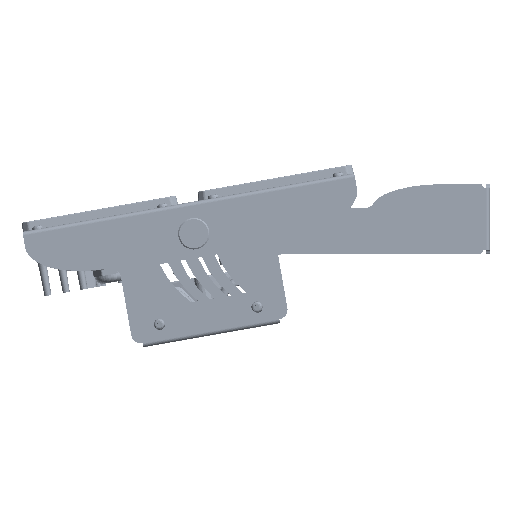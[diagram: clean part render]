
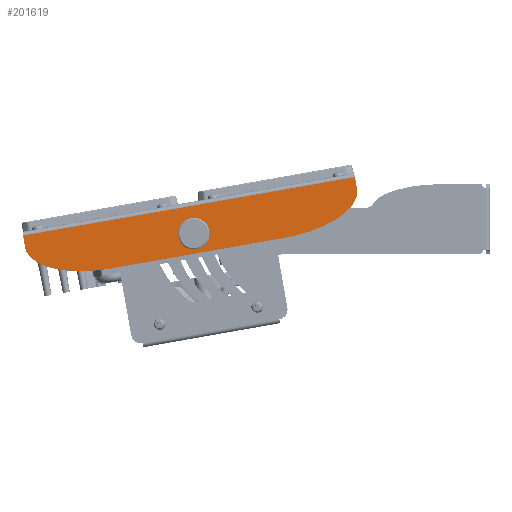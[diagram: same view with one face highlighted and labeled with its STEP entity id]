
A CAD part, left-side view. The second image highlights one B-rep face of the part: STEP entity #201619.
In plain terms, the highlighted planar face has unit normal (-1, 0, 0).
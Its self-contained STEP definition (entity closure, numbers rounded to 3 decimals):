
#16005=ELLIPSE('',#214063,40.,18.);
#16007=ELLIPSE('',#214066,40.,18.);
#19106=FACE_BOUND('',#34298,.T.);
#22347=FACE_OUTER_BOUND('',#34297,.T.);
#34297=EDGE_LOOP('',(#144525,#144526,#144527,#144528,#144529,#144530));
#34298=EDGE_LOOP('',(#144531));
#44650=CIRCLE('',#213337,4.);
#53830=LINE('',#297410,#66855);
#53835=LINE('',#297428,#66860);
#53839=LINE('',#297449,#66864);
#53841=LINE('',#297452,#66866);
#66855=VECTOR('',#236815,10.);
#66860=VECTOR('',#236826,10.);
#66864=VECTOR('',#236836,10.);
#66866=VECTOR('',#236840,10.);
#80004=VERTEX_POINT('',#289761);
#81438=VERTEX_POINT('',#297407);
#81439=VERTEX_POINT('',#297409);
#81441=VERTEX_POINT('',#297420);
#81443=VERTEX_POINT('',#297426);
#81445=VERTEX_POINT('',#297441);
#81447=VERTEX_POINT('',#297447);
#102505=EDGE_CURVE('',#80004,#80004,#44650,.T.);
#104653=EDGE_CURVE('',#81438,#81439,#53830,.T.);
#104657=EDGE_CURVE('',#81441,#81438,#16005,.T.);
#104660=EDGE_CURVE('',#81443,#81441,#53835,.T.);
#104663=EDGE_CURVE('',#81445,#81443,#16007,.T.);
#104666=EDGE_CURVE('',#81447,#81445,#53839,.T.);
#104668=EDGE_CURVE('',#81439,#81447,#53841,.T.);
#144525=ORIENTED_EDGE('',*,*,#104663,.F.);
#144526=ORIENTED_EDGE('',*,*,#104666,.F.);
#144527=ORIENTED_EDGE('',*,*,#104668,.F.);
#144528=ORIENTED_EDGE('',*,*,#104653,.F.);
#144529=ORIENTED_EDGE('',*,*,#104657,.F.);
#144530=ORIENTED_EDGE('',*,*,#104660,.F.);
#144531=ORIENTED_EDGE('',*,*,#102505,.T.);
#195159=PLANE('',#214069);
#201619=ADVANCED_FACE('',(#22347,#19106),#195159,.F.);
#213337=AXIS2_PLACEMENT_3D('',#289762,#234427,#234428);
#214063=AXIS2_PLACEMENT_3D('',#297422,#236820,#236821);
#214066=AXIS2_PLACEMENT_3D('',#297443,#236830,#236831);
#214069=AXIS2_PLACEMENT_3D('',#297453,#236841,#236842);
#234427=DIRECTION('center_axis',(1.,0.,0.));
#234428=DIRECTION('ref_axis',(0.,0.,
1.));
#236815=DIRECTION('',(0.,0.174,0.985));
#236820=DIRECTION('center_axis',(1.,0.,0.));
#236821=DIRECTION('ref_axis',(0.,-0.985,0.174));
#236826=DIRECTION('',(0.,0.985,-0.174));
#236830=DIRECTION('center_axis',(1.,0.,0.));
#236831=DIRECTION('ref_axis',(0.,0.985,-0.174));
#236836=DIRECTION('',(0.,-0.174,-0.985));
#236840=DIRECTION('',(0.,-0.985,0.174));
#236841=DIRECTION('center_axis',(1.,0.,0.));
#236842=DIRECTION('ref_axis',(0.,-0.985,0.174));
#289761=CARTESIAN_POINT('',(1387.429,14.004,-9.));
#289762=CARTESIAN_POINT('Origin',(1387.429,14.004,-5.));
#297407=CARTESIAN_POINT('',(1387.429,99.102,-11.882));
#297409=CARTESIAN_POINT('',(1387.429,100.144,-5.973));
#297410=CARTESIAN_POINT('',(1387.429,104.436,18.368));
#297420=CARTESIAN_POINT('',(1387.429,56.584,-22.662));
#297422=CARTESIAN_POINT('Origin',(1387.429,59.71,-4.936));
#297426=CARTESIAN_POINT('',(1387.429,-32.049,-7.034));
#297428=CARTESIAN_POINT('',(1387.429,56.584,-22.662));
#297441=CARTESIAN_POINT('',(1387.429,-68.315,17.638));
#297443=CARTESIAN_POINT('Origin',(1387.429,-28.923,10.693));
#297447=CARTESIAN_POINT('',(1387.429,-67.273,23.547));
#297449=CARTESIAN_POINT('',(1387.429,-62.981,47.889));
#297452=CARTESIAN_POINT('',(1387.429,100.144,-5.973));
#297453=CARTESIAN_POINT('Origin',(1387.429,14.352,-3.03));
